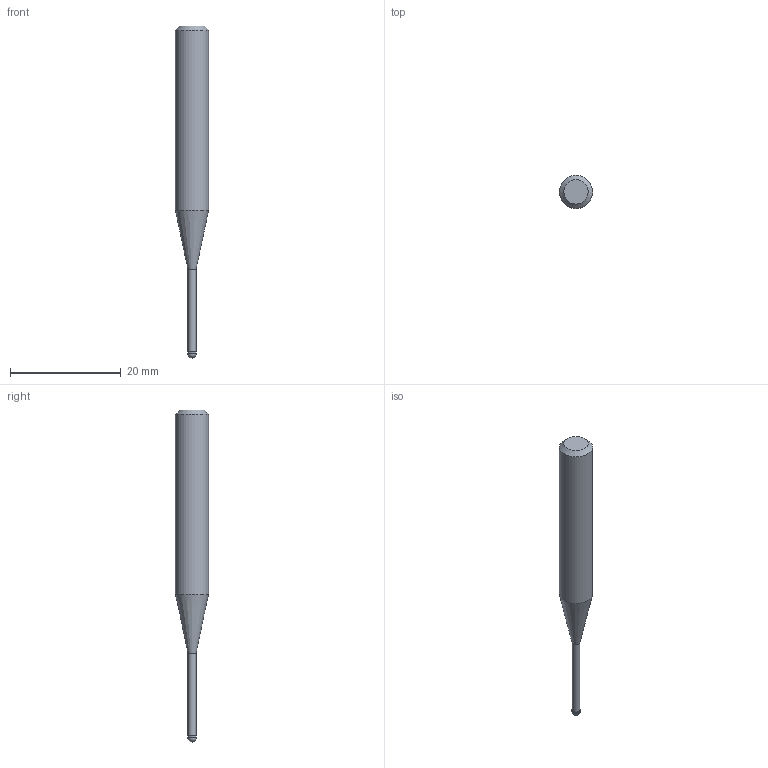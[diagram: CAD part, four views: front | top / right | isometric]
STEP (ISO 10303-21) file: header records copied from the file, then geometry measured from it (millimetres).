
FILE_DESCRIPTION((''),'2;1');
FILE_NAME('C:\Users\nsx150\AppData\Local\Temp\Mastercam 2021\3SYKECWX22\TEMP.step','2021-04-22T10:03:28',(''),(''),'STEP Write','Mastercam 2021 ... CNC Software, Inc.','');
FILE_SCHEMA(('AUTOMOTIVE_DESIGN'));
Length unit declared in the file: millimetre
Products named in the file (1): None
Bounding box: 6 x 6 x 60 mm (x, y, z)
Volume: 1093.2 mm3; surface area: 850.8 mm2
Topology: 2 solids, 2 shells, 9 faces, 14 edges, 8 vertices
Faces by surface type: plane 3, cylinder 3, cone 2, sphere 1
Full cylindrical faces by diameter (mm): 1.45 x1, 1.5 x1, 6 x1
Entity records: 211 total; most frequent: DIRECTION 36, CARTESIAN_POINT 25, AXIS2_PLACEMENT_3D 18, ORIENTED_EDGE 14, EDGE_LOOP 14, STYLED_ITEM 12, ADVANCED_FACE 9, FACE_BOUND 8
